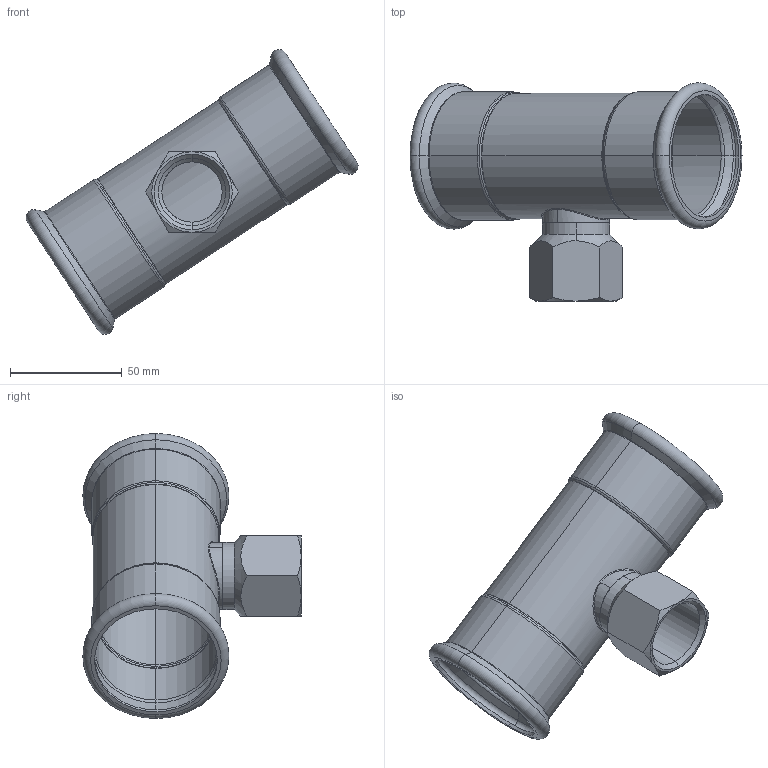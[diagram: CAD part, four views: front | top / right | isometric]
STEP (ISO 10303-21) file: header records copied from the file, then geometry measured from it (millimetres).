
FILE_DESCRIPTION (( 'STEP AP203' ), '1' );
FILE_NAME ('GDA5266.STEP', '2019-01-21T12:10:15', ( '' ), ( '' ), 'SwSTEP 2.0', 'SolidWorks 2015', '' );
FILE_SCHEMA (( 'CONFIG_CONTROL_DESIGN' ));
Length unit declared in the file: millimetre
Products named in the file (3): ITC-I-03-28℅1; GDA5266; T(R)-¢ñ-54¡Á28''
Assembly tree (2 placements, depth 2):
  GDA5266
    ITC-I-03-28℅1
    T(R)-¢ñ-54¡Á28''
Bounding box: 148.59 x 97.69 x 127.54 mm (x, y, z)
Volume: 50762.2 mm3; surface area: 59636.1 mm2
Topology: 2 solids, 2 shells, 103 faces, 218 edges, 122 vertices
Faces by surface type: torus 32, cone 28, cylinder 26, plane 13, bspline 4
Entity records: 4211 total; most frequent: CARTESIAN_POINT 1678, DIRECTION 526, ORIENTED_EDGE 436, AXIS2_PLACEMENT_3D 236, EDGE_CURVE 218, CIRCLE 132, VERTEX_POINT 122, EDGE_LOOP 112
